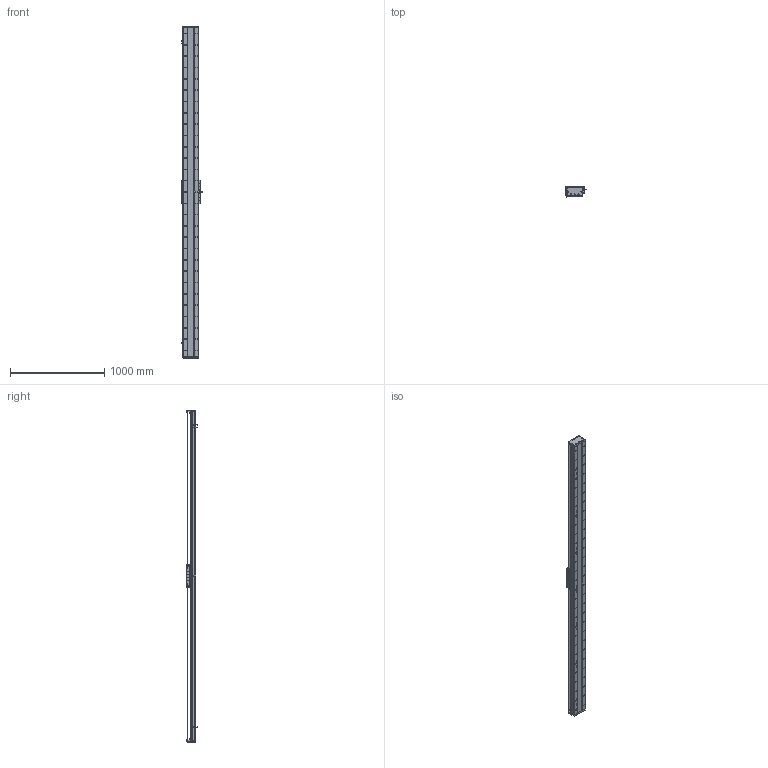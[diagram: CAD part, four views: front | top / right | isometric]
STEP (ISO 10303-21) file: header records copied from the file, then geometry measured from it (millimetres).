
FILE_DESCRIPTION (( 'STEP AP203' ), '1' );
FILE_NAME ('DA-C165-C3-T3180-C010-0.2 直线电机.STEP', '2023-06-13T09:00:49', ( '微软用户' ), ( '微软中国' ), 'SwSTEP 2.0', 'SolidWorks 2019', '' );
FILE_SCHEMA (( 'CONFIG_CONTROL_DESIGN' ));
Length unit declared in the file: millimetre
Products named in the file (18): 复件 DA165-GYP-00 光电感应片^DA-C165-C3-T-C010-0.2-N 直线电机; 复件 六角薄螺母 M3^DA-C165-C3-T-C010-0.2-N 直线电机_GB_FASTENER_NUT_STNAB M3-C; 复件 DA165-GDLK-00 钢带拉块^复件 CU165钢带组件_DA-C165-C3-T-C010-0.2-N 直线电机; 珨极趙賑雄怢啣C3-wf; 葩璃 PM-T45^DA-C165-C3-T-C010-0.2-N 眻盄萇儂; IU-CU165-L 菁釱絳寢; 复件 DA95-HXJ-00 缓冲橡胶^DA-C165-C3-T-C010-0.2-N 直线电机; DA-C165-C3-T3180-C010-0.2 眻盄萇儂; 葩璃 DA95-GT-T-00^IU-CU165-L 菁釱絳寢_T; 复件 DMA-010-0.2 读数头^DA-C165-C3-T-C010-0.2-N 直线电机; 葩璃 CKM03-W075-C1C2-TP-3.0^DA-C165-C3-T-C010-0.2-N 眻盄萇儂; 复件 XD-U-02L 磁栅尺^DA-C165-C3-T-C010-0.2-N 直线电机_T; 复件 DA165-GD-1860-002-00 钢带盖板^复件 CU165钢带组件_DA-C165-C3-T-C010-0.2-N 直线电机; 复件 DA165-GDYK-00 钢带压块^复件 CU165钢带组件_DA-C165-C3-T-C010-0.2-N 直线电机; 复件 DA165-GD-DG-H-00 端盖^复件 CU165钢带组件_DA-C165-C3-T-C010-0.2-N 直线电机; 复件 CU165钢带组件^DA-C165-C3-T-C010-0.2-N 直线电机; 复件 CU165 底座^IU-CU165-L 底座导轨_L3480; 葩璃 CKM01-W075-TRL^DA-C165-C3-T-C010-0.2-N 眻盄萇儂
Assembly tree (35 placements, depth 3):
  DA-C165-C3-T3180-C010-0.2 眻盄萇儂
    IU-CU165-L 菁釱絳寢
      复件 CU165 底座^IU-CU165-L 底座导轨_L3480
      葩璃 DA95-GT-T-00^IU-CU165-L 菁釱絳寢_T  x4
    复件 XD-U-02L 磁栅尺^DA-C165-C3-T-C010-0.2-N 直线电机_T
    葩璃 PM-T45^DA-C165-C3-T-C010-0.2-N 眻盄萇儂  x3
    葩璃 CKM01-W075-TRL^DA-C165-C3-T-C010-0.2-N 眻盄萇儂
    复件 CU165钢带组件^DA-C165-C3-T-C010-0.2-N 直线电机
      复件 DA165-GD-DG-H-00 端盖^复件 CU165钢带组件_DA-C165-C3-T-C010-0.2-N 直线电机  x2
      复件 DA165-GDYK-00 钢带压块^复件 CU165钢带组件_DA-C165-C3-T-C010-0.2-N 直线电机  x2
      复件 DA165-GD-1860-002-00 钢带盖板^复件 CU165钢带组件_DA-C165-C3-T-C010-0.2-N 直线电机
      复件 DA165-GDLK-00 钢带拉块^复件 CU165钢带组件_DA-C165-C3-T-C010-0.2-N 直线电机  x2
    复件 DA95-HXJ-00 缓冲橡胶^DA-C165-C3-T-C010-0.2-N 直线电机  x4
    复件 DA165-GYP-00 光电感应片^DA-C165-C3-T-C010-0.2-N 直线电机
    复件 DMA-010-0.2 读数头^DA-C165-C3-T-C010-0.2-N 直线电机
    葩璃 CKM03-W075-C1C2-TP-3.0^DA-C165-C3-T-C010-0.2-N 眻盄萇儂
    复件 六角薄螺母 M3^DA-C165-C3-T-C010-0.2-N 直线电机_GB_FASTENER_NUT_STNAB M3-C  x8
    珨极趙賑雄怢啣C3-wf
Bounding box: 233 x 111.45 x 3520 mm (x, y, z)
Volume: 19410685.7 mm3; surface area: 5859475.7 mm2
Topology: 72 solids, 122 shells, 4798 faces, 14127 edges, 8996 vertices
Faces by surface type: cylinder 2928, plane 1244, cone 576, torus 46, sphere 4
Entity records: 165733 total; most frequent: CARTESIAN_POINT 46709, ORIENTED_EDGE 25006, DIRECTION 23945, EDGE_CURVE 12503, AXIS2_PLACEMENT_3D 9244, VERTEX_POINT 8184, EDGE_LOOP 5745, VECTOR 5457
